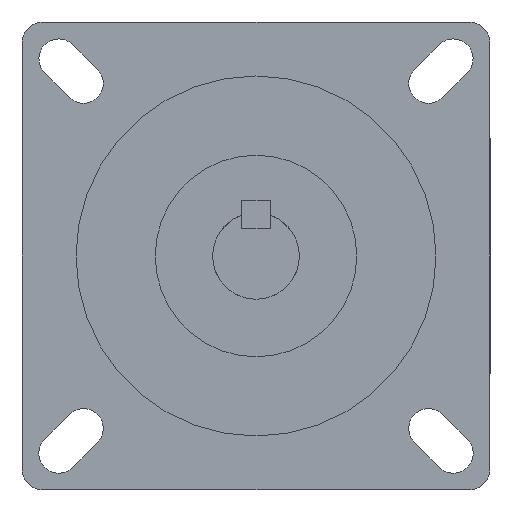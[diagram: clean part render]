
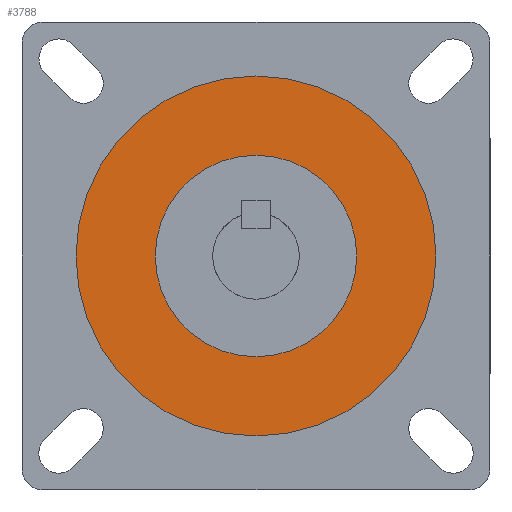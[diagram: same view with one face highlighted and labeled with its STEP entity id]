
A CAD part, left-side view. The second image highlights one B-rep face of the part: STEP entity #3788.
In plain terms, the highlighted planar face has unit normal (-1, 0, 0).
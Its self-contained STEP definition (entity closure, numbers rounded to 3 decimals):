
#82 = AXIS2_PLACEMENT_3D ( 'NONE', #4545, #4013, #3489 ) ;
#158 = DIRECTION ( 'NONE',  ( 0., 0., 1. ) ) ;
#214 = DIRECTION ( 'NONE',  ( 0., 0., 1. ) ) ;
#521 = CARTESIAN_POINT ( 'NONE',  ( -4., 0., -50. ) ) ;
#600 = CARTESIAN_POINT ( 'NONE',  ( -4., 0., -28. ) ) ;
#649 = ORIENTED_EDGE ( 'NONE', *, *, #1458, .T. ) ;
#662 = DIRECTION ( 'NONE',  ( -1., 0., 0. ) ) ;
#683 = ORIENTED_EDGE ( 'NONE', *, *, #1688, .T. ) ;
#718 = DIRECTION ( 'NONE',  ( -1., 0., 0. ) ) ;
#815 = FACE_OUTER_BOUND ( 'NONE', #2447, .T. ) ;
#1124 = CARTESIAN_POINT ( 'NONE',  ( -4., 0., 28. ) ) ;
#1183 = CARTESIAN_POINT ( 'NONE',  ( -4., 0., 0. ) ) ;
#1219 = AXIS2_PLACEMENT_3D ( 'NONE', #1183, #662, #158 ) ;
#1239 = CARTESIAN_POINT ( 'NONE',  ( -4., 0., 0. ) ) ;
#1458 = EDGE_CURVE ( 'NONE', #4622, #4106, #2053, .T. ) ;
#1688 = EDGE_CURVE ( 'NONE', #4106, #4622, #2082, .T. ) ;
#1758 = AXIS2_PLACEMENT_3D ( 'NONE', #3448, #2989, #2468 ) ;
#2053 = CIRCLE ( 'NONE', #2946, 50. ) ;
#2082 = CIRCLE ( 'NONE', #1758, 50. ) ;
#2296 = EDGE_LOOP ( 'NONE', ( #3427, #2359 ) ) ;
#2359 = ORIENTED_EDGE ( 'NONE', *, *, #2520, .F. ) ;
#2447 = EDGE_LOOP ( 'NONE', ( #649, #683 ) ) ;
#2468 = DIRECTION ( 'NONE',  ( 0., 0., 1. ) ) ;
#2520 = EDGE_CURVE ( 'NONE', #4029, #4030, #2683, .T. ) ;
#2683 = CIRCLE ( 'NONE', #4686, 28. ) ;
#2805 = CIRCLE ( 'NONE', #82, 28. ) ;
#2946 = AXIS2_PLACEMENT_3D ( 'NONE', #1239, #718, #214 ) ;
#2989 = DIRECTION ( 'NONE',  ( -1., 0., 0. ) ) ;
#3099 = CARTESIAN_POINT ( 'NONE',  ( -4., 0., 0. ) ) ;
#3137 = CARTESIAN_POINT ( 'NONE',  ( -4., 0., 50. ) ) ;
#3427 = ORIENTED_EDGE ( 'NONE', *, *, #3595, .F. ) ;
#3448 = CARTESIAN_POINT ( 'NONE',  ( -4., 0., 0. ) ) ;
#3489 = DIRECTION ( 'NONE',  ( 0., 0., 1. ) ) ;
#3595 = EDGE_CURVE ( 'NONE', #4030, #4029, #2805, .T. ) ;
#3788 = ADVANCED_FACE ( 'NONE', ( #815, #4120 ), #4353, .T. ) ;
#4013 = DIRECTION ( 'NONE',  ( -1., 0., 0. ) ) ;
#4029 = VERTEX_POINT ( 'NONE', #1124 ) ;
#4030 = VERTEX_POINT ( 'NONE', #600 ) ;
#4106 = VERTEX_POINT ( 'NONE', #3137 ) ;
#4120 = FACE_BOUND ( 'NONE', #2296, .T. ) ;
#4353 = PLANE ( 'NONE',  #1219 ) ;
#4545 = CARTESIAN_POINT ( 'NONE',  ( -4., 0., 0. ) ) ;
#4565 = DIRECTION ( 'NONE',  ( 0., 0., 1. ) ) ;
#4622 = VERTEX_POINT ( 'NONE', #521 ) ;
#4686 = AXIS2_PLACEMENT_3D ( 'NONE', #3099, #5089, #4565 ) ;
#5089 = DIRECTION ( 'NONE',  ( -1., 0., 0. ) ) ;
